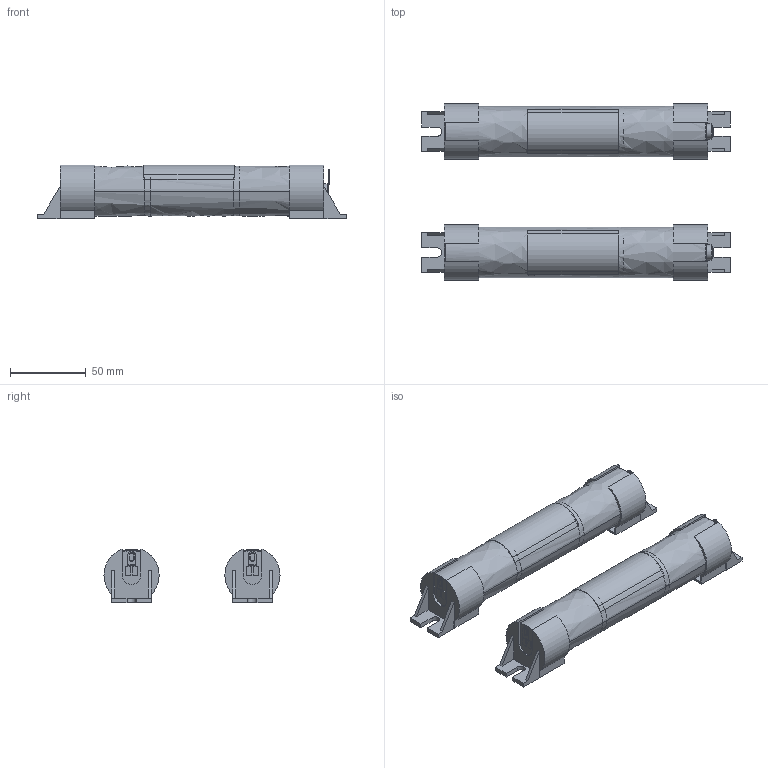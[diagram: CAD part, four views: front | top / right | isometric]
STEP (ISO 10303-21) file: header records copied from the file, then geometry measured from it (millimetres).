
FILE_DESCRIPTION((''),'2;1');
FILE_NAME('15012481Z_DMEC_89800388_6C-55','2018-07-11T13:15:59',('Emanuel.Wild'),(''),'CREO PARAMETRIC BY PTC INC, 2017380','CREO PARAMETRIC BY PTC INC, 2017380','');
FILE_SCHEMA(('AUTOMOTIVE_DESIGN { 1 0 10303 214 1 1 1 1 }'));
Length unit declared in the file: millimetre
Products named in the file (1): 15012481Z_DMEC_89800388_6C-55
Bounding box: 204.35 x 116.5 x 35.57 mm (x, y, z)
Volume: 309452.3 mm3; surface area: 77458.4 mm2
Topology: 2 solids, 10 shells, 508 faces, 1346 edges, 864 vertices
Faces by surface type: bspline 334, revolution 150, extrusion 24
Entity records: 21607 total; most frequent: CARTESIAN_POINT 9706, ORIENTED_EDGE 2676, DIRECTION 1696, EDGE_CURVE 1346, VERTEX_POINT 864, VECTOR 760, LINE 736, EDGE_LOOP 526
